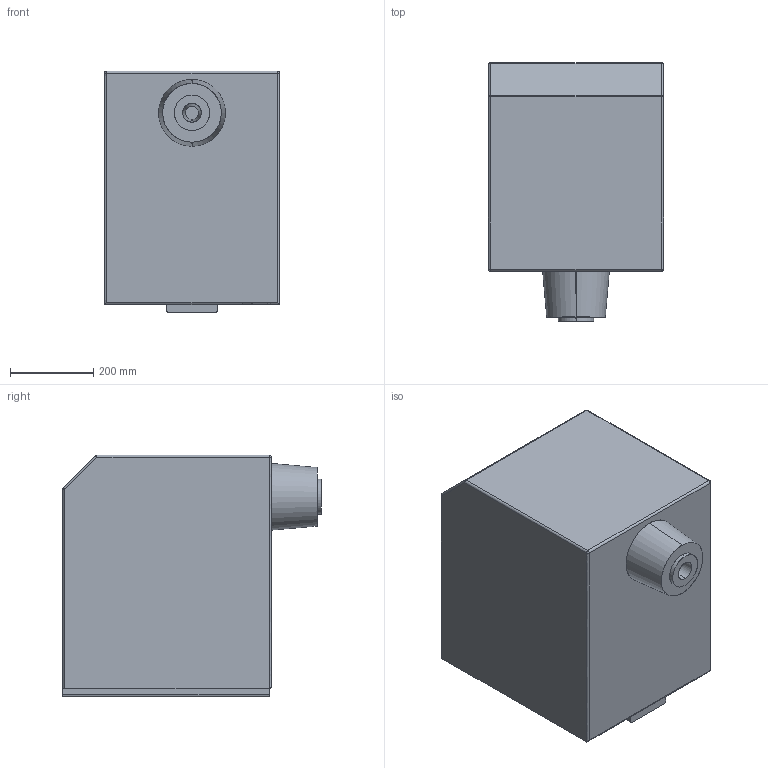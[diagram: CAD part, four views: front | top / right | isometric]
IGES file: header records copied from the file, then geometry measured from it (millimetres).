
Start section: SolidWorks IGES file using analytic representation for surfaces
Global section: file name: J:\Scolaire\BAC Pro\Epreuves professionnelles\E2\CD\Dossier Examinateurs\Dessins CN 5 axes\IGES\Nez de Broche.IGS; native system: SolidWorks 2005 by SolidWorks Corporation; preprocessor: SolidWorks 2005 by SolidWorks Corporation; author: Famille Couzi; date: 091204.123456; units: millimetre
Bounding box: 420 x 620 x 580 mm (x, y, z)
Surface area: 1502142.9 mm2 (no closed solid volume)
Topology: 0 solids, 0 shells, 41 faces, 614 edges, 610 vertices
Faces by surface type: revolution 26, bspline 15
